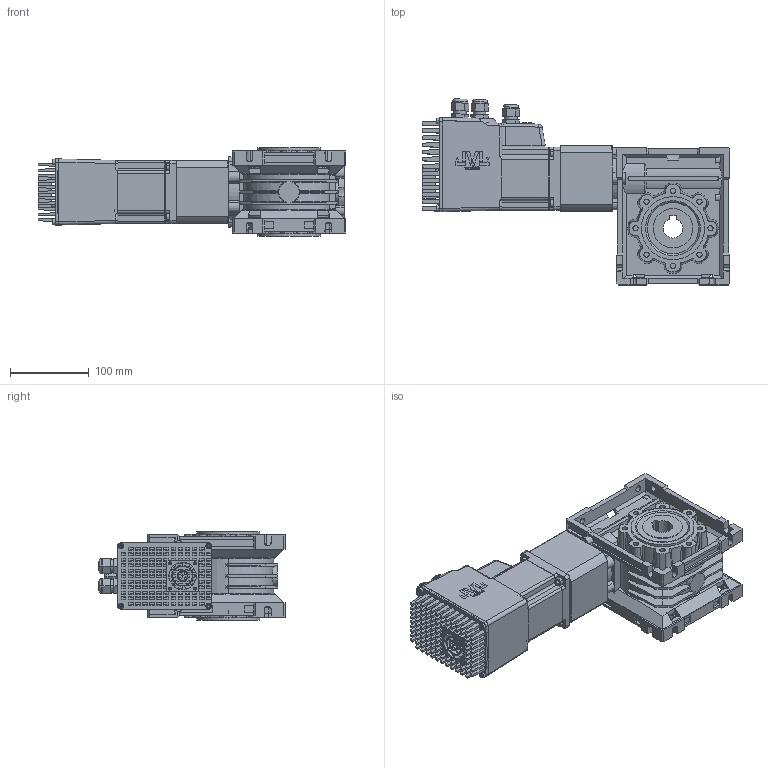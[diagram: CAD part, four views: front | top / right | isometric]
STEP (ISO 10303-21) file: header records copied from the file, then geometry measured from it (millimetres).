
FILE_DESCRIPTION (( 'STEP AP214' ), '1' );
FILE_NAME ('AF2017_0229_St1_Alleggerito.STEP', '2017-11-20T07:46:18', ( 'Utente' ), ( 'Hewlett-Packard Company' ), 'SwSTEP 2.0', 'SolidWorks 2013', '' );
FILE_SCHEMA (( 'AUTOMOTIVE_DESIGN' ));
Length unit declared in the file: millimetre
Products named in the file (14): AF2017_0229_St1_Alleggerito; GRANO ESTREMITA COPPA DIN916 UNI5929_M04x06; TESTA CILINDRICA FILETTATO UNI 5931 DIN 912_M8x18; TESTA CILINDRICA FILETTATO UNI 5931 DIN 912_M5x16; LINGUETTA CHA UNI 6604 DIN6885_CHA05x5x18; AF2017_0229_St1_Special_Sleeve; Mac800-D2_1; lid01_1; 3D_MAC140-A1_1; TopLid_1_2; TopLid_1; MAC800-D1_1; AF2017_0229_St1_Special_Flange; CM063_U_Base_input14
Assembly tree (22 placements, depth 4):
  AF2017_0229_St1_Alleggerito
    CM063_U_Base_input14
    AF2017_0229_St1_Special_Flange
    Mac800-D2_1
      MAC800-D1_1
      lid01_1
        TopLid_1
        TopLid_1_2
        3D_MAC140-A1_1  x4
    AF2017_0229_St1_Special_Sleeve
    LINGUETTA CHA UNI 6604 DIN6885_CHA05x5x18
    TESTA CILINDRICA FILETTATO UNI 5931 DIN 912_M5x16  x4
    TESTA CILINDRICA FILETTATO UNI 5931 DIN 912_M8x18  x4
    GRANO ESTREMITA COPPA DIN916 UNI5929_M04x06
Bounding box: 390 x 236.06 x 112 mm (x, y, z)
Volume: 2009072.4 mm3; surface area: 503498.2 mm2
Topology: 19 solids, 40 shells, 3195 faces, 8207 edges, 5308 vertices
Faces by surface type: plane 2102, cylinder 485, cone 458, bspline 130, torus 20
Entity records: 125118 total; most frequent: CARTESIAN_POINT 33473, ORIENTED_EDGE 15378, DIRECTION 13000, EDGE_CURVE 7699, LINE 5146, VECTOR 5146, VERTEX_POINT 5008, AXIS2_PLACEMENT_3D 3927
